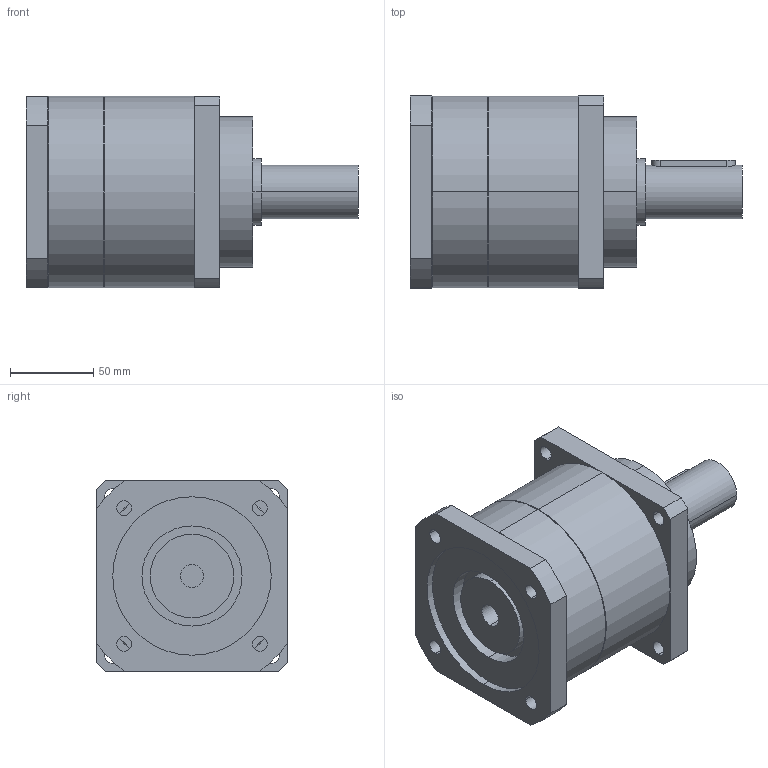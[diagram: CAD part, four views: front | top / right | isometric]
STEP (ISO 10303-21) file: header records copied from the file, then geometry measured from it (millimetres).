
FILE_DESCRIPTION(('CoCreate Modeling STEP Export'),'2;1');
FILE_NAME('GPT120_ig-3-4-5-7-10_32_B5A_14_P06.stp','2015-02-04T16:07:15',(''),(''),'CoCreate Modeling STEP processor for AP214 (Solid Model)','CoCreate Modeling 16.00C 25-Feb-2009 (C) Parametric Technology GmbH','');
FILE_SCHEMA(('AUTOMOTIVE_DESIGN { 1 0 10303 214 1 1 1 1 }'));
Length unit declared in the file: millimetre
Products named in the file (2): GPT120_ig-3-4-5-7-10_32_B5A_14_P06
Assembly tree (1 placements, depth 2):
  GPT120_ig-3-4-5-7-10_32_B5A_14_P06
    GPT120_ig-3-4-5-7-10_32_B5A_14_P06
Bounding box: 199 x 115 x 115 mm (x, y, z)
Volume: 1401525 mm3; surface area: 96481.8 mm2
Topology: 1 solids, 1 shells, 81 faces, 222 edges, 149 vertices
Faces by surface type: cylinder 46, plane 31, cone 4
Entity records: 2671 total; most frequent: CARTESIAN_POINT 774, ORIENTED_EDGE 444, DIRECTION 330, EDGE_CURVE 222, VERTEX_POINT 149, AXIS2_PLACEMENT_3D 123, EDGE_LOOP 103, VECTOR 84
